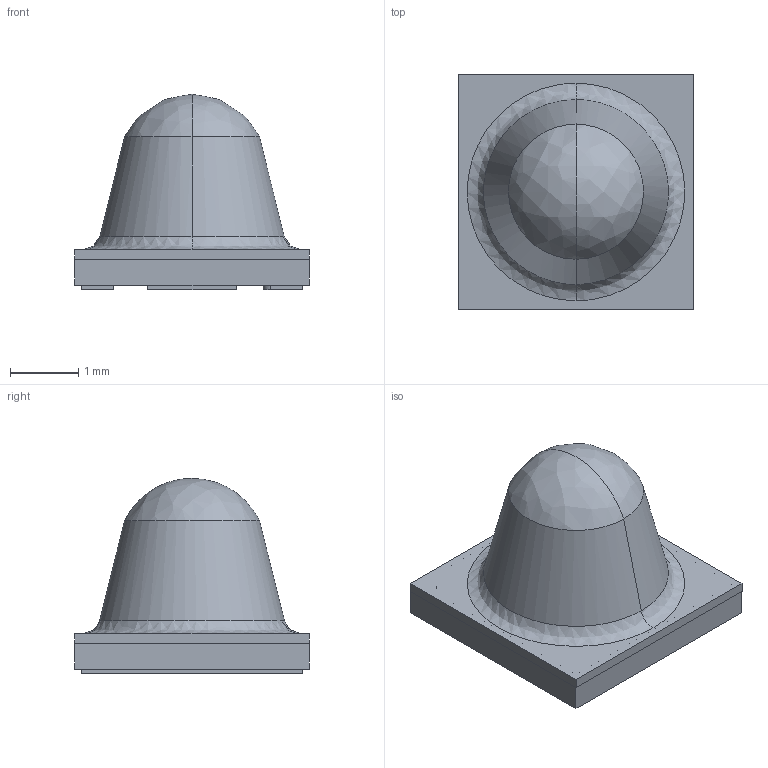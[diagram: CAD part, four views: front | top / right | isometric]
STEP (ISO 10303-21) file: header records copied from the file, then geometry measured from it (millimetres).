
FILE_DESCRIPTION(/* description */ (''),/* implementation_level */ '2;1');
FILE_NAME(/* name */ 'STED845',/* time_stamp */ '2025-01-17T10:02:51+08:00',/* author */ (''),/* organization */ (''),/* preprocessor_version */ 'ST-DEVELOPER v16.5',/* originating_system */ '',/* authorisation */ '');
FILE_SCHEMA (('CONFIG_CONTROL_DESIGN'));
Length unit declared in the file: millimetre
Products named in the file (1): Document
Bounding box: 3.45 x 3.45 x 2.87 mm (x, y, z)
Volume: 16.9 mm3; surface area: 124 mm2
Topology: 15 solids, 15 shells, 385 faces, 951 edges, 617 vertices
Faces by surface type: plane 199, cylinder 131, bspline 55
Entity records: 14505 total; most frequent: CARTESIAN_POINT 7600, ORIENTED_EDGE 1902, EDGE_CURVE 951, VERTEX_POINT 617, B_SPLINE_CURVE_WITH_KNOTS 591, EDGE_LOOP 410, ADVANCED_FACE 385, FACE_OUTER_BOUND 385
